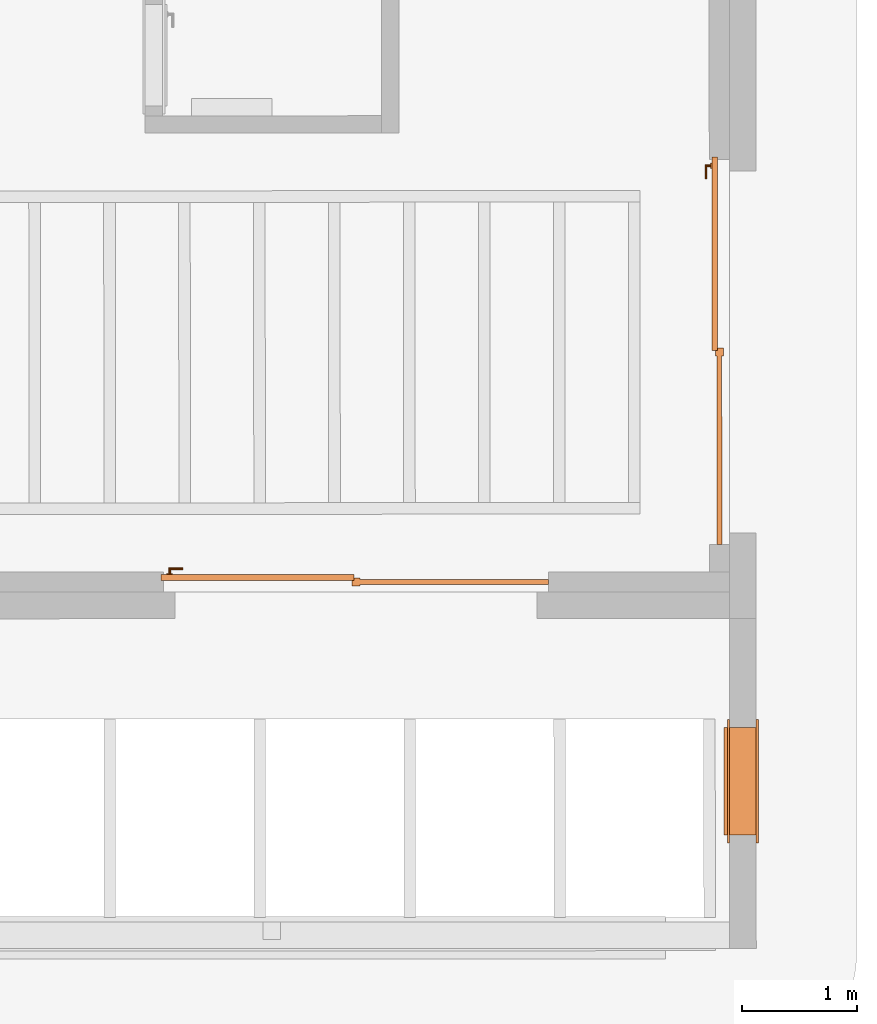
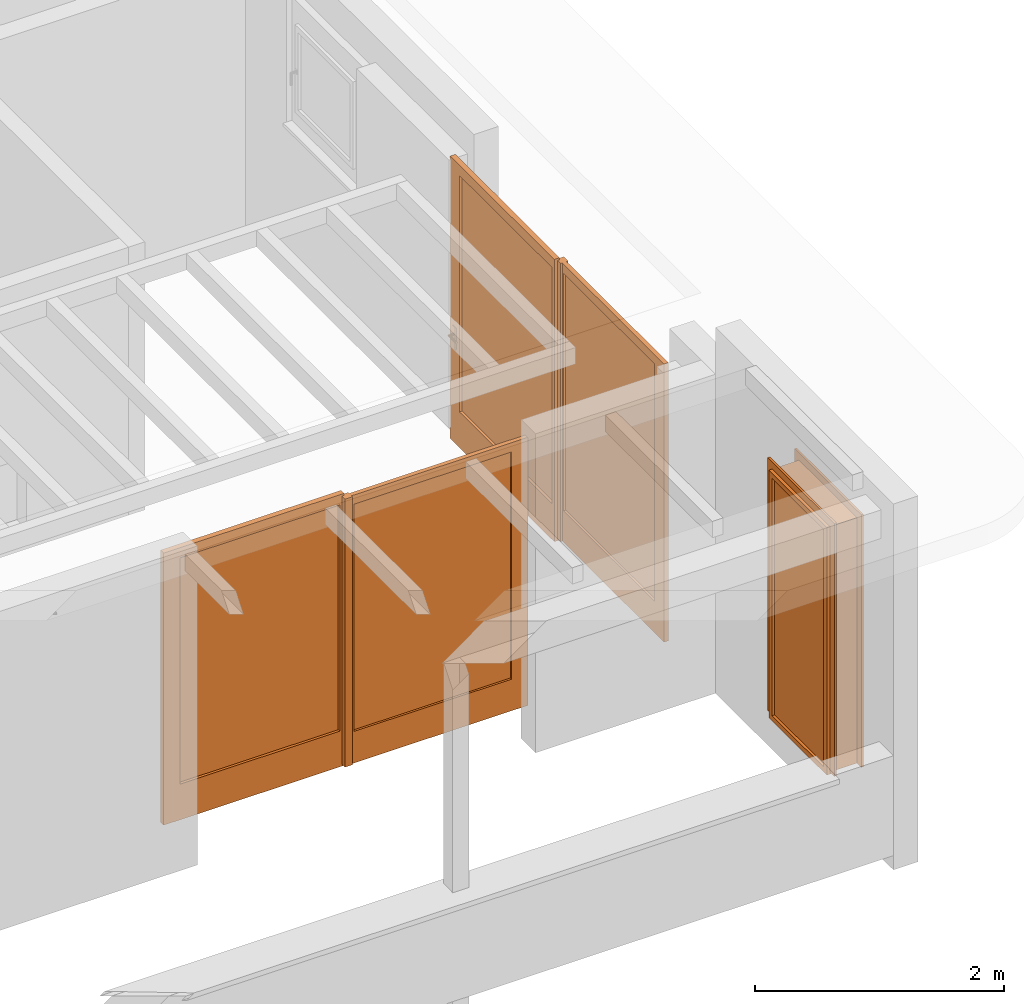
# One storey, part 5 of 7: 3 proxies.
"""IFC2X3 building model written with IfcOpenShell, lengths in metres."""

from ifc_helpers import new_model, entity, si_unit, converted_unit, derived_unit, direction, frame, origin, origin_with_axes, place, context, subcontext, project, spatial, closed_shell, open_shell, surface_model, source, transform, mapped, element, save


model = new_model("IFC2X3")

# Units and contexts
model_context = context("Model", 3, precision=1e-05, world=origin(), true_north=direction((0.772621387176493, -0.634867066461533)))
body_context = subcontext(model_context, "Body", "Model", "MODEL_VIEW")
ifc_project = project(units=[si_unit("LENGTHUNIT", "METRE"), si_unit("AREAUNIT", "SQUARE_METRE"), si_unit("VOLUMEUNIT", "CUBIC_METRE"), si_unit("MASSUNIT", "GRAM", prefix="KILO"), converted_unit("PLANEANGLEUNIT", "DEGREE", entity("IfcPlaneAngleMeasure", 0.0174532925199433), si_unit("PLANEANGLEUNIT", "RADIAN"), dimensions=[0, 0, 0, 0, 0, 0, 0]), derived_unit("THERMALTRANSMITTANCEUNIT", [(si_unit("POWERUNIT", "WATT"), 1), (si_unit("THERMODYNAMICTEMPERATUREUNIT", "KELVIN"), -1), (si_unit("LENGTHUNIT", "METRE"), -2)]), derived_unit("VOLUMETRICFLOWRATEUNIT", [(si_unit("LENGTHUNIT", "METRE"), 3), (converted_unit("TIMEUNIT", "hour", entity("IfcTimeMeasure", 3600.0), si_unit("TIMEUNIT", "SECOND"), dimensions=[0, 0, 1, 0, 0, 0, 0]), -1), (si_unit("LENGTHUNIT", "METRE"), -1)])], contexts=[model_context])

# Site, building, storey
site_placement = place(None, origin())
site = spatial("IfcSite", under=ifc_project, at=site_placement, Name="Modelle auf dem Nullpunkt", CompositionType="ELEMENT")
building_placement = place(site_placement, origin())
building = spatial("IfcBuilding", under=site, at=building_placement, Name="I", CompositionType="ELEMENT")
storey_placement = place(building_placement, origin())
storey = spatial("IfcBuildingStorey", under=building, at=storey_placement, Name="3.OG", CompositionType="ELEMENT", Elevation=0.0)

# Proxies
shared_shape_1 = source(origin_with_axes(), body_context, "Body", "SurfaceModel", [
    surface_model("IfcShellBasedSurfaceModel", [(1.70499999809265, 0.0, 2.75), (1.70499999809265, 0.0, 0.02), (1.63499999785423, 0.0, 0.02), (1.63499999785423, 0.0, 2.75), (1.70499999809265, 0.07, 0.02), (1.70499999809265, 0.07, 2.75), (1.63499999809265, 0.07, 2.75), (1.63499999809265, 0.07, 0.02)], [closed_shell([[[0, 1, 2, 3]], [[4, 5, 6, 7]], [[1, 0, 5, 4]], [[2, 1, 4, 7]], [[3, 2, 7, 6]], [[0, 3, 6, 5]]], orient=[[False], [False], [False], [False], [False], [False]])]),
    surface_model("IfcShellBasedSurfaceModel", [(3.35999999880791, 0.0499999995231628, 2.77), (3.35999999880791, 0.0499999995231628, 0.0), (3.20999999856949, 0.0499999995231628, 0.0), (3.20999999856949, 0.0499999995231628, 2.77), (3.35999999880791, 0.0999999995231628, 0.0), (3.35999999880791, 0.0999999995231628, 2.77), (3.20999999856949, 0.0999999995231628, 2.77), (3.20999999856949, 0.0999999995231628, 0.0)], [closed_shell([[[0, 1, 2, 3]], [[4, 5, 6, 7]], [[1, 0, 5, 4]], [[2, 1, 4, 7]], [[3, 2, 7, 6]], [[0, 3, 6, 5]]], orient=[[False], [False], [False], [False], [False], [False]])]),
    surface_model("IfcShellBasedSurfaceModel", [(1.72499999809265, 0.0500000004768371, 2.77), (1.72499999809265, 0.0500000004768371, 0.0), (1.68499999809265, 0.0500000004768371, 0.0), (1.68499999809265, 0.0500000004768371, 2.77), (1.72499999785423, 0.1, 0.0), (1.72499999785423, 0.1, 2.77), (1.68499999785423, 0.1, 2.77), (1.68499999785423, 0.1, 0.0)], [closed_shell([[[0, 1, 2, 3]], [[4, 5, 6, 7]], [[1, 0, 5, 4]], [[2, 1, 4, 7]], [[3, 2, 7, 6]], [[0, 3, 6, 5]]], orient=[[False], [False], [False], [False], [False], [False]])]),
    surface_model("IfcShellBasedSurfaceModel", [(3.20999999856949, 0.0499999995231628, 0.35), (3.20999999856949, 0.0499999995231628, 0.0), (1.72499999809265, 0.0500000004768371, 0.0), (1.72499999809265, 0.0500000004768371, 0.35), (3.20999999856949, 0.0999999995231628, 0.0), (3.20999999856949, 0.0999999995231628, 0.35), (1.72499999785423, 0.1, 0.35), (1.72499999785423, 0.1, 0.0)], [closed_shell([[[0, 1, 2, 3]], [[4, 5, 6, 7]], [[1, 0, 5, 4]], [[2, 1, 4, 7]], [[3, 2, 7, 6]], [[0, 3, 6, 5]]], orient=[[False], [False], [False], [False], [False], [False]])]),
    surface_model("IfcShellBasedSurfaceModel", [(3.20999999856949, 0.0499999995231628, 2.77), (3.20999999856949, 0.0499999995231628, 2.67), (1.72499999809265, 0.0500000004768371, 2.67), (1.72499999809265, 0.0500000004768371, 2.77), (3.20999999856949, 0.0999999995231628, 2.67), (3.20999999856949, 0.0999999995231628, 2.77), (1.72499999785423, 0.1, 2.77), (1.72499999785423, 0.1, 2.67)], [closed_shell([[[0, 1, 2, 3]], [[4, 5, 6, 7]], [[1, 0, 5, 4]], [[2, 1, 4, 7]], [[3, 2, 7, 6]], [[0, 3, 6, 5]]], orient=[[False], [False], [False], [False], [False], [False]])]),
    surface_model("IfcShellBasedSurfaceModel", [(3.30999999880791, 0.1, 1.145), (3.30999999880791, 0.1, 0.93), (3.25999999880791, 0.1, 0.93), (3.25999999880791, 0.1, 1.145), (3.30999999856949, 0.11, 0.93), (3.30999999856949, 0.11, 1.145), (3.25999999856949, 0.11, 1.145), (3.25999999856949, 0.11, 0.93)], [closed_shell([[[0, 1, 2, 3]], [[4, 5, 6, 7]], [[1, 0, 5, 4]], [[2, 1, 4, 7]], [[3, 2, 7, 6]], [[0, 3, 6, 5]]], orient=[[False], [False], [False], [False], [False], [False]])]),
    surface_model("IfcShellBasedSurfaceModel", [(3.28499999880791, 0.11, 1.08), (3.28999999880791, 0.109999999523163, 1.07866025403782), (3.29366025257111, 0.11, 1.075), (3.29499999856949, 0.11, 1.07), (3.29366025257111, 0.11, 1.065), (3.28999999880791, 0.109999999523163, 1.06133974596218), (3.28499999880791, 0.11, 1.06), (3.27999999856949, 0.109999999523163, 1.06133974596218), (3.27633974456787, 0.11, 1.065), (3.27499999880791, 0.11, 1.07), (3.27633974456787, 0.11, 1.075), (3.27999999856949, 0.109999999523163, 1.07866025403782), (3.28499999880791, 0.149999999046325, 1.08), (3.28999999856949, 0.154999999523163, 1.07866025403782), (3.29366025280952, 0.15866025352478, 1.075), (3.29499999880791, 0.159999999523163, 1.07), (3.29366025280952, 0.15866025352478, 1.065), (3.28999999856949, 0.154999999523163, 1.06133974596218), (3.28499999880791, 0.149999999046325, 1.06), (3.27999999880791, 0.145, 1.06133974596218), (3.27633974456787, 0.141339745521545, 1.065), (3.27499999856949, 0.14, 1.07), (3.27633974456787, 0.141339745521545, 1.075), (3.27999999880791, 0.145, 1.07866025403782), (3.16999999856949, 0.149999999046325, 1.08), (3.16999999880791, 0.144999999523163, 1.07866025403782), (3.16999999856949, 0.141339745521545, 1.075), (3.16999999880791, 0.14, 1.07), (3.16999999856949, 0.141339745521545, 1.065), (3.16999999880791, 0.144999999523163, 1.06133974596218), (3.16999999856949, 0.149999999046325, 1.06), (3.16999999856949, 0.155, 1.06133974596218), (3.16999999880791, 0.15866025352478, 1.065), (3.16999999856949, 0.159999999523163, 1.07), (3.16999999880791, 0.15866025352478, 1.075), (3.16999999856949, 0.155, 1.07866025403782)], [closed_shell([[[0, 1, 2, 3, 4, 5, 6, 7, 8, 9, 10, 11]], [[0, 12, 13, 1]], [[1, 13, 14, 2]], [[2, 14, 15, 3]], [[3, 15, 16, 4]], [[4, 16, 17, 5]], [[5, 17, 18, 6]], [[6, 18, 19, 7]], [[7, 19, 20, 8]], [[8, 20, 21, 9]], [[9, 21, 22, 10]], [[10, 22, 23, 11]], [[11, 23, 12, 0]], [[24, 25, 26, 27, 28, 29, 30, 31, 32, 33, 34, 35]], [[12, 24, 35, 13]], [[13, 35, 34, 14]], [[14, 34, 33, 15]], [[15, 33, 32, 16]], [[16, 32, 31, 17]], [[17, 31, 30, 18]], [[18, 30, 29, 19]], [[19, 29, 28, 20]], [[20, 28, 27, 21]], [[21, 27, 26, 22]], [[22, 26, 25, 23]], [[23, 25, 24, 12]]], orient=[[False], [False], [False], [False], [False], [False], [False], [False], [False], [False], [False], [False], [False], [False], [False], [False], [False], [False], [False], [False], [False], [False], [False], [False], [False], [False]])]),
    surface_model("IfcShellBasedSurfaceModel", [(1.63499999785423, 0.015, 2.75), (1.63499999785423, 0.015, 0.02), (1.61499999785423, 0.015, 0.02), (1.61499999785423, 0.015, 2.75), (1.63499999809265, 0.055, 0.02), (1.63499999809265, 0.055, 2.75), (1.61499999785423, 0.055, 2.75), (1.61499999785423, 0.055, 0.02)], [closed_shell([[[0, 1, 2, 3]], [[4, 5, 6, 7]], [[1, 0, 5, 4]], [[2, 1, 4, 7]], [[3, 2, 7, 6]], [[0, 3, 6, 5]]], orient=[[False], [False], [False], [False], [False], [False]])]),
    surface_model("IfcShellBasedSurfaceModel", [(0.149999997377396, 0.015, 2.75), (0.149999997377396, 0.015, 0.02), (0.0, 0.015, 0.02), (0.0, 0.015, 2.75), (0.149999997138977, 0.055, 0.02), (0.149999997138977, 0.055, 2.75), (0.0, 0.055, 2.75), (0.0, 0.055, 0.02)], [closed_shell([[[0, 1, 2, 3]], [[4, 5, 6, 7]], [[1, 0, 5, 4]], [[2, 1, 4, 7]], [[3, 2, 7, 6]], [[0, 3, 6, 5]]], orient=[[False], [False], [False], [False], [False], [False]])]),
    surface_model("IfcShellBasedSurfaceModel", [(1.61499999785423, 0.015, 0.33), (1.61499999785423, 0.015, 0.02), (0.149999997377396, 0.015, 0.02), (0.149999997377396, 0.015, 0.33), (1.61499999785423, 0.055, 0.02), (1.61499999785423, 0.055, 0.33), (0.149999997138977, 0.055, 0.33), (0.149999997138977, 0.055, 0.02)], [closed_shell([[[0, 1, 2, 3]], [[4, 5, 6, 7]], [[1, 0, 5, 4]], [[2, 1, 4, 7]], [[3, 2, 7, 6]], [[0, 3, 6, 5]]], orient=[[False], [False], [False], [False], [False], [False]])]),
    surface_model("IfcShellBasedSurfaceModel", [(1.61499999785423, 0.015, 2.75), (1.61499999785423, 0.015, 2.66), (0.149999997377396, 0.015, 2.66), (0.149999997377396, 0.015, 2.75), (1.61499999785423, 0.055, 2.66), (1.61499999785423, 0.055, 2.75), (0.149999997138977, 0.055, 2.75), (0.149999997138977, 0.055, 2.66)], [closed_shell([[[0, 1, 2, 3]], [[4, 5, 6, 7]], [[1, 0, 5, 4]], [[2, 1, 4, 7]], [[3, 2, 7, 6]], [[0, 3, 6, 5]]], orient=[[False], [False], [False], [False], [False], [False]])]),
    surface_model("IfcShellBasedSurfaceModel", [(3.20999999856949, 0.075, 0.35), (1.72499999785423, 0.0749999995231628, 0.35), (1.72499999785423, 0.0749999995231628, 2.67), (3.20999999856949, 0.075, 2.67)], [open_shell([[[0, 1, 2, 3]]], orient=[[False]])]),
    surface_model("IfcShellBasedSurfaceModel", [(1.61499999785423, 0.0349999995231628, 0.33), (0.149999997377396, 0.0350000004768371, 0.33), (0.149999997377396, 0.0350000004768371, 2.66), (1.61499999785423, 0.0349999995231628, 2.66)], [open_shell([[[0, 1, 2, 3]]], orient=[[False]])]),
])
proxy_1_placement = place(storey_placement, frame((40.9768436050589, -4.6392824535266, 444.48), z_axis=(0.0, 0.0, 1.0), x_axis=(-0.000353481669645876, 0.999999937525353, 0.0)))
element("IfcBuildingElementProxy", 1, at=proxy_1_placement, inside=storey, Name="1flg Weiß Blockzarge", ObjectType="DOOR", context=body_context, shape_type="MappedRepresentation", body=[
    mapped(shared_shape_1, transform((0.0, 0.0, 0.0), x_axis=(1.0, 0.0, 0.0), y_axis=(0.0, 1.0, 0.0), z_axis=(0.0, 0.0, 1.0), scale=1.0)),
])
shared_shape_2 = source(origin_with_axes(), body_context, "Body", "SurfaceModel", [
    surface_model("IfcShellBasedSurfaceModel", [(1.65500000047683, 0.0, 2.65), (1.72500000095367, 0.0, 2.65), (1.72500000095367, 0.0, 0.02), (1.65500000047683, 0.0, 0.02), (1.65500000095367, 0.0699999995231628, 0.02), (1.72500000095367, 0.0699999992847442, 0.02), (1.72500000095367, 0.0699999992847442, 2.65), (1.65500000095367, 0.0699999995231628, 2.65)], [closed_shell([[[0, 1, 2, 3]], [[4, 5, 6, 7]], [[3, 4, 7, 0]], [[2, 5, 4, 3]], [[1, 6, 5, 2]], [[0, 7, 6, 1]]], orient=[[False], [False], [False], [False], [False], [False]])]),
    surface_model("IfcShellBasedSurfaceModel", [(0.0, 0.0499999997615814, 2.67), (0.150000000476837, 0.0499999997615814, 2.67), (0.150000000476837, 0.0499999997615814, 0.0), (0.0, 0.0499999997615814, 0.0), (0.0, 0.0999999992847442, 0.0), (0.150000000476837, 0.0999999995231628, 0.0), (0.150000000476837, 0.0999999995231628, 2.67), (0.0, 0.0999999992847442, 2.67)], [closed_shell([[[0, 1, 2, 3]], [[4, 5, 6, 7]], [[3, 4, 7, 0]], [[2, 5, 4, 3]], [[1, 6, 5, 2]], [[0, 7, 6, 1]]], orient=[[False], [False], [False], [False], [False], [False]])]),
    surface_model("IfcShellBasedSurfaceModel", [(1.63500000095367, 0.0499999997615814, 2.67), (1.67500000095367, 0.0499999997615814, 2.67), (1.67500000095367, 0.0499999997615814, 0.0), (1.63500000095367, 0.0499999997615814, 0.0), (1.63500000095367, 0.0999999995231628, 0.0), (1.67500000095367, 0.0999999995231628, 0.0), (1.67500000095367, 0.0999999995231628, 2.67), (1.63500000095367, 0.0999999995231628, 2.67)], [closed_shell([[[0, 1, 2, 3]], [[4, 5, 6, 7]], [[3, 4, 7, 0]], [[2, 5, 4, 3]], [[1, 6, 5, 2]], [[0, 7, 6, 1]]], orient=[[False], [False], [False], [False], [False], [False]])]),
    surface_model("IfcShellBasedSurfaceModel", [(0.150000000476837, 0.0499999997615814, 0.35), (1.63500000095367, 0.0499999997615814, 0.35), (1.63500000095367, 0.0499999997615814, 0.0), (0.150000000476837, 0.0499999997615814, 0.0), (0.150000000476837, 0.0999999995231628, 0.0), (1.63500000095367, 0.0999999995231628, 0.0), (1.63500000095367, 0.0999999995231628, 0.35), (0.150000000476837, 0.0999999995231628, 0.35)], [closed_shell([[[0, 1, 2, 3]], [[4, 5, 6, 7]], [[3, 4, 7, 0]], [[2, 5, 4, 3]], [[1, 6, 5, 2]], [[0, 7, 6, 1]]], orient=[[False], [False], [False], [False], [False], [False]])]),
    surface_model("IfcShellBasedSurfaceModel", [(0.150000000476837, 0.0499999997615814, 2.67), (1.63500000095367, 0.0499999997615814, 2.67), (1.63500000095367, 0.0499999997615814, 2.57), (0.150000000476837, 0.0499999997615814, 2.57), (0.150000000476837, 0.0999999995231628, 2.57), (1.63500000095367, 0.0999999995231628, 2.57), (1.63500000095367, 0.0999999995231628, 2.67), (0.150000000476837, 0.0999999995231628, 2.67)], [closed_shell([[[0, 1, 2, 3]], [[4, 5, 6, 7]], [[3, 4, 7, 0]], [[2, 5, 4, 3]], [[1, 6, 5, 2]], [[0, 7, 6, 1]]], orient=[[False], [False], [False], [False], [False], [False]])]),
    surface_model("IfcShellBasedSurfaceModel", [(0.05, 0.0999999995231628, 1.145), (0.1, 0.0999999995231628, 1.145), (0.1, 0.0999999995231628, 0.93), (0.05, 0.0999999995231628, 0.93), (0.05, 0.109999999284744, 0.93), (0.1, 0.109999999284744, 0.93), (0.1, 0.109999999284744, 1.145), (0.05, 0.109999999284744, 1.145)], [closed_shell([[[0, 1, 2, 3]], [[4, 5, 6, 7]], [[3, 4, 7, 0]], [[2, 5, 4, 3]], [[1, 6, 5, 2]], [[0, 7, 6, 1]]], orient=[[False], [False], [False], [False], [False], [False]])]),
    surface_model("IfcShellBasedSurfaceModel", [(0.075, 0.109999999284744, 1.08), (0.0800000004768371, 0.109999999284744, 1.07866025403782), (0.0836602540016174, 0.109999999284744, 1.075), (0.0850000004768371, 0.109999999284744, 1.07), (0.0836602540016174, 0.109999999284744, 1.065), (0.0800000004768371, 0.109999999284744, 1.06133974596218), (0.075, 0.109999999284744, 1.06), (0.0700000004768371, 0.109999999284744, 1.06133974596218), (0.0663397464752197, 0.109999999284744, 1.065), (0.065, 0.109999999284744, 1.07), (0.0663397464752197, 0.109999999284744, 1.075), (0.0700000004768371, 0.109999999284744, 1.07866025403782), (0.07, 0.154999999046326, 1.07866025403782), (0.075, 0.149999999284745, 1.08), (0.0663397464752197, 0.158660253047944, 1.075), (0.0650000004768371, 0.159999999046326, 1.07), (0.0663397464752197, 0.158660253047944, 1.065), (0.07, 0.154999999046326, 1.06133974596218), (0.075, 0.149999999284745, 1.06), (0.0800000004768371, 0.144999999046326, 1.06133974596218), (0.0836602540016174, 0.141339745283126, 1.065), (0.0850000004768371, 0.139999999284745, 1.07), (0.0836602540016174, 0.141339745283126, 1.075), (0.0800000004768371, 0.144999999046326, 1.07866025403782), (0.19, 0.149999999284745, 1.08), (0.19, 0.154999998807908, 1.07866025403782), (0.19, 0.158660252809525, 1.075), (0.19, 0.159999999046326, 1.07), (0.19, 0.158660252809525, 1.065), (0.19, 0.154999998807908, 1.06133974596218), (0.19, 0.149999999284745, 1.06), (0.190000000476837, 0.144999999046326, 1.06133974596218), (0.19, 0.141339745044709, 1.065), (0.19, 0.139999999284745, 1.07), (0.19, 0.141339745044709, 1.075), (0.190000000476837, 0.144999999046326, 1.07866025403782)], [closed_shell([[[0, 1, 2, 3, 4, 5, 6, 7, 8, 9, 10, 11]], [[0, 11, 12, 13]], [[11, 10, 14, 12]], [[10, 9, 15, 14]], [[9, 8, 16, 15]], [[8, 7, 17, 16]], [[7, 6, 18, 17]], [[6, 5, 19, 18]], [[5, 4, 20, 19]], [[4, 3, 21, 20]], [[3, 2, 22, 21]], [[2, 1, 23, 22]], [[1, 0, 13, 23]], [[24, 25, 26, 27, 28, 29, 30, 31, 32, 33, 34, 35]], [[13, 12, 25, 24]], [[12, 14, 26, 25]], [[14, 15, 27, 26]], [[15, 16, 28, 27]], [[16, 17, 29, 28]], [[17, 18, 30, 29]], [[18, 19, 31, 30]], [[19, 20, 32, 31]], [[20, 21, 33, 32]], [[21, 22, 34, 33]], [[22, 23, 35, 34]], [[23, 13, 24, 35]]], orient=[[False], [False], [False], [False], [False], [False], [False], [False], [False], [False], [False], [False], [False], [False], [False], [False], [False], [False], [False], [False], [False], [False], [False], [False], [False], [False]])]),
    surface_model("IfcShellBasedSurfaceModel", [(1.72500000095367, 0.015, 2.65), (1.74500000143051, 0.0149999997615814, 2.65), (1.74500000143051, 0.0149999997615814, 0.02), (1.72500000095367, 0.015, 0.02), (1.72500000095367, 0.0549999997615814, 0.02), (1.74500000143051, 0.0549999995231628, 0.02), (1.74500000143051, 0.0549999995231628, 2.65), (1.72500000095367, 0.0549999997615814, 2.65)], [closed_shell([[[0, 1, 2, 3]], [[4, 5, 6, 7]], [[3, 4, 7, 0]], [[2, 5, 4, 3]], [[1, 6, 5, 2]], [[0, 7, 6, 1]]], orient=[[False], [False], [False], [False], [False], [False]])]),
    surface_model("IfcShellBasedSurfaceModel", [(3.21000000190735, 0.0149999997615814, 2.65), (3.36000000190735, 0.015, 2.65), (3.36000000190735, 0.015, 0.02), (3.21000000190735, 0.0149999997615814, 0.02), (3.21000000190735, 0.0549999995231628, 0.02), (3.36000000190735, 0.0549999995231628, 0.02), (3.36000000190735, 0.0549999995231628, 2.65), (3.21000000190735, 0.0549999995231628, 2.65)], [closed_shell([[[0, 1, 2, 3]], [[4, 5, 6, 7]], [[3, 4, 7, 0]], [[2, 5, 4, 3]], [[1, 6, 5, 2]], [[0, 7, 6, 1]]], orient=[[False], [False], [False], [False], [False], [False]])]),
    surface_model("IfcShellBasedSurfaceModel", [(1.74500000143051, 0.0149999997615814, 0.33), (3.21000000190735, 0.0149999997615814, 0.33), (3.21000000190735, 0.0149999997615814, 0.02), (1.74500000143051, 0.0149999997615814, 0.02), (1.74500000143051, 0.0549999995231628, 0.02), (3.21000000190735, 0.0549999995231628, 0.02), (3.21000000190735, 0.0549999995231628, 0.33), (1.74500000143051, 0.0549999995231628, 0.33)], [closed_shell([[[0, 1, 2, 3]], [[4, 5, 6, 7]], [[3, 4, 7, 0]], [[2, 5, 4, 3]], [[1, 6, 5, 2]], [[0, 7, 6, 1]]], orient=[[False], [False], [False], [False], [False], [False]])]),
    surface_model("IfcShellBasedSurfaceModel", [(1.74500000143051, 0.0149999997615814, 2.65), (3.21000000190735, 0.0149999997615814, 2.65), (3.21000000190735, 0.0149999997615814, 2.56), (1.74500000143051, 0.0149999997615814, 2.56), (1.74500000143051, 0.0549999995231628, 2.56), (3.21000000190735, 0.0549999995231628, 2.56), (3.21000000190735, 0.0549999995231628, 2.65), (1.74500000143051, 0.0549999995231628, 2.65)], [closed_shell([[[0, 1, 2, 3]], [[4, 5, 6, 7]], [[3, 4, 7, 0]], [[2, 5, 4, 3]], [[1, 6, 5, 2]], [[0, 7, 6, 1]]], orient=[[False], [False], [False], [False], [False], [False]])]),
    surface_model("IfcShellBasedSurfaceModel", [(0.150000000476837, 0.0749999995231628, 0.35), (0.150000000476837, 0.0749999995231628, 2.57), (1.63500000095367, 0.0749999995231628, 2.57), (1.63500000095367, 0.0749999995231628, 0.35)], [open_shell([[[0, 1, 2, 3]]], orient=[[False]])]),
    surface_model("IfcShellBasedSurfaceModel", [(1.74500000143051, 0.035, 0.33), (1.74500000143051, 0.035, 2.56), (3.21000000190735, 0.0349999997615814, 2.56), (3.21000000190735, 0.0349999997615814, 0.33)], [open_shell([[[0, 1, 2, 3]]], orient=[[False]])]),
])
proxy_2_placement = place(storey_placement, frame((36.0994702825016, -4.9985065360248, 444.58), z_axis=(0.0, 0.0, 1.0), x_axis=(0.999999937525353, 0.000353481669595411, 0.0)))
element("IfcBuildingElementProxy", 2, at=proxy_2_placement, inside=storey, Name="1flg Weiß Blockzarge", ObjectType="DOOR", context=body_context, shape_type="MappedRepresentation", body=[
    mapped(shared_shape_2, transform((0.0, 0.0, 0.0), x_axis=(1.0, 0.0, 0.0), y_axis=(0.0, 1.0, 0.0), z_axis=(0.0, 0.0, 1.0), scale=1.0)),
])
shared_shape_3 = source(origin_with_axes(), body_context, "Body", "SurfaceModel", [
    surface_model("IfcShellBasedSurfaceModel", [(0.0700000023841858, 0.270000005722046, 2.43), (0.0700000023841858, 0.270000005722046, 0.02), (0.0900000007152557, 0.270000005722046, 0.02), (0.0900000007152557, 0.270000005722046, 2.43), (0.0700000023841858, 0.0, 0.02), (0.0700000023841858, 0.0, 2.43), (0.0900000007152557, 0.0, 2.43), (0.0900000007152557, 0.0, 0.02)], [closed_shell([[[0, 1, 2, 3]], [[4, 5, 6, 7]], [[1, 0, 5, 4]], [[2, 1, 4, 7]], [[3, 2, 7, 6]], [[0, 3, 6, 5]]], orient=[[False], [False], [False], [False], [False], [False]])]),
    surface_model("IfcShellBasedSurfaceModel", [(0.0700000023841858, 0.270000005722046, 2.5), (0.0, 0.270000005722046, 2.5), (0.0, 0.270000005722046, 0.02), (0.0700000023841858, 0.270000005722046, 0.02), (0.0700000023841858, 0.25000000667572, 0.02), (0.0, 0.250000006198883, 0.02), (0.0, 0.250000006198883, 2.5), (0.0700000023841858, 0.25000000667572, 2.5)], [closed_shell([[[0, 1, 2, 3]], [[4, 5, 6, 7]], [[3, 4, 7, 0]], [[2, 5, 4, 3]], [[1, 6, 5, 2]], [[0, 7, 6, 1]]], orient=[[False], [False], [False], [False], [False], [False]])]),
    surface_model("IfcShellBasedSurfaceModel", [(0.0700000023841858, 0.02, 2.5), (0.0, 0.02, 2.5), (0.0, 0.02, 0.02), (0.0700000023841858, 0.02, 0.02), (0.0700000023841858, 0.0, 0.02), (0.0, 0.0, 0.02), (0.0, 0.0, 2.5), (0.0700000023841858, 0.0, 2.5)], [closed_shell([[[0, 1, 2, 3]], [[4, 5, 6, 7]], [[3, 4, 7, 0]], [[2, 5, 4, 3]], [[1, 6, 5, 2]], [[0, 7, 6, 1]]], orient=[[False], [False], [False], [False], [False], [False]])]),
    surface_model("IfcShellBasedSurfaceModel", [(0.98000000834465, 0.270000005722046, 2.43), (0.98000000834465, 0.270000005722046, 0.02), (1.00000000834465, 0.270000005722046, 0.02), (1.00000000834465, 0.270000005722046, 2.43), (0.98000000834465, 0.0, 0.02), (0.98000000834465, 0.0, 2.43), (1.00000000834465, 0.0, 2.43), (1.00000000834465, 0.0, 0.02)], [closed_shell([[[0, 1, 2, 3]], [[4, 5, 6, 7]], [[1, 0, 5, 4]], [[2, 1, 4, 7]], [[3, 2, 7, 6]], [[0, 3, 6, 5]]], orient=[[False], [False], [False], [False], [False], [False]])]),
    surface_model("IfcShellBasedSurfaceModel", [(1.00000000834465, 0.270000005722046, 2.5), (1.00000000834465, 0.270000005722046, 0.02), (1.07000000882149, 0.270000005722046, 0.02), (1.07000000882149, 0.270000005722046, 2.5), (1.00000000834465, 0.250000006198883, 0.02), (1.00000000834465, 0.250000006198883, 2.5), (1.07000000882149, 0.250000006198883, 2.5), (1.07000000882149, 0.250000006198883, 0.02)], [closed_shell([[[0, 1, 2, 3]], [[4, 5, 6, 7]], [[1, 0, 5, 4]], [[2, 1, 4, 7]], [[3, 2, 7, 6]], [[0, 3, 6, 5]]], orient=[[False], [False], [False], [False], [False], [False]])]),
    surface_model("IfcShellBasedSurfaceModel", [(1.00000000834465, 0.02, 2.5), (1.00000000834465, 0.02, 0.02), (1.07000000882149, 0.0199999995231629, 0.02), (1.07000000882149, 0.0199999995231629, 2.5), (1.00000000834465, 0.0, 0.02), (1.00000000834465, 0.0, 2.5), (1.07000000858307, 0.0, 2.5), (1.07000000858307, 0.0, 0.02)], [closed_shell([[[0, 1, 2, 3]], [[4, 5, 6, 7]], [[1, 0, 5, 4]], [[2, 1, 4, 7]], [[3, 2, 7, 6]], [[0, 3, 6, 5]]], orient=[[False], [False], [False], [False], [False], [False]])]),
    surface_model("IfcShellBasedSurfaceModel", [(0.0900000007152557, 0.270000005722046, 2.43), (0.0900000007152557, 0.270000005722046, 2.41), (0.98000000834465, 0.270000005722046, 2.41), (0.98000000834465, 0.270000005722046, 2.43), (0.0900000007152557, 0.0, 2.41), (0.0900000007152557, 0.0, 2.43), (0.98000000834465, 0.0, 2.43), (0.98000000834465, 0.0, 2.41)], [closed_shell([[[0, 1, 2, 3]], [[4, 5, 6, 7]], [[1, 0, 5, 4]], [[2, 1, 4, 7]], [[3, 2, 7, 6]], [[0, 3, 6, 5]]], orient=[[False], [False], [False], [False], [False], [False]])]),
    surface_model("IfcShellBasedSurfaceModel", [(0.0700000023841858, 0.270000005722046, 2.5), (0.0700000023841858, 0.270000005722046, 2.43), (1.00000000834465, 0.270000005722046, 2.43), (1.00000000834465, 0.270000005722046, 2.5), (0.0700000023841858, 0.25000000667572, 2.43), (0.0700000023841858, 0.25000000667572, 2.5), (1.00000000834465, 0.250000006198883, 2.5), (1.00000000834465, 0.250000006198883, 2.43)], [closed_shell([[[0, 1, 2, 3]], [[4, 5, 6, 7]], [[1, 0, 5, 4]], [[2, 1, 4, 7]], [[3, 2, 7, 6]], [[0, 3, 6, 5]]], orient=[[False], [False], [False], [False], [False], [False]])]),
    surface_model("IfcShellBasedSurfaceModel", [(0.0700000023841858, 0.02, 2.5), (0.0700000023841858, 0.02, 2.43), (1.00000000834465, 0.02, 2.43), (1.00000000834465, 0.02, 2.5), (0.0700000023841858, 0.0, 2.43), (0.0700000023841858, 0.0, 2.5), (1.00000000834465, 0.0, 2.5), (1.00000000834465, 0.0, 2.43)], [closed_shell([[[0, 1, 2, 3]], [[4, 5, 6, 7]], [[1, 0, 5, 4]], [[2, 1, 4, 7]], [[3, 2, 7, 6]], [[0, 3, 6, 5]]], orient=[[False], [False], [False], [False], [False], [False]])]),
    surface_model("IfcShellBasedSurfaceModel", [(0.0700000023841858, 0.300000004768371, 2.43), (0.0700000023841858, 0.300000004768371, 0.0), (0.120000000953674, 0.300000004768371, 0.0), (0.120000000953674, 0.300000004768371, 2.43), (0.0700000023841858, 0.25000000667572, 0.0), (0.0700000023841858, 0.25000000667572, 2.43), (0.120000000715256, 0.25000000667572, 2.43), (0.120000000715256, 0.25000000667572, 0.0)], [closed_shell([[[0, 1, 2, 3]], [[4, 5, 6, 7]], [[1, 0, 5, 4]], [[2, 1, 4, 7]], [[3, 2, 7, 6]], [[0, 3, 6, 5]]], orient=[[False], [False], [False], [False], [False], [False]])]),
    surface_model("IfcShellBasedSurfaceModel", [(0.950000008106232, 0.300000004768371, 2.43), (0.950000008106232, 0.300000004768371, 0.0), (1.00000000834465, 0.300000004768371, 0.0), (1.00000000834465, 0.300000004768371, 2.43), (0.950000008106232, 0.250000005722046, 0.0), (0.950000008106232, 0.250000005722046, 2.43), (1.00000000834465, 0.250000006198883, 2.43), (1.00000000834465, 0.250000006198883, 0.0)], [closed_shell([[[0, 1, 2, 3]], [[4, 5, 6, 7]], [[1, 0, 5, 4]], [[2, 1, 4, 7]], [[3, 2, 7, 6]], [[0, 3, 6, 5]]], orient=[[False], [False], [False], [False], [False], [False]])]),
    surface_model("IfcShellBasedSurfaceModel", [(0.120000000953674, 0.300000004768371, 0.05), (0.120000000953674, 0.300000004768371, 0.0), (0.950000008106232, 0.300000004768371, 0.0), (0.950000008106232, 0.300000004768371, 0.05), (0.120000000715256, 0.25000000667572, 0.0), (0.120000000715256, 0.25000000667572, 0.05), (0.950000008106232, 0.250000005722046, 0.05), (0.950000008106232, 0.250000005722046, 0.0)], [closed_shell([[[0, 1, 2, 3]], [[4, 5, 6, 7]], [[1, 0, 5, 4]], [[2, 1, 4, 7]], [[3, 2, 7, 6]], [[0, 3, 6, 5]]], orient=[[False], [False], [False], [False], [False], [False]])]),
    surface_model("IfcShellBasedSurfaceModel", [(0.120000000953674, 0.300000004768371, 2.43), (0.120000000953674, 0.300000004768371, 2.38), (0.950000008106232, 0.300000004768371, 2.38), (0.950000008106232, 0.300000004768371, 2.43), (0.120000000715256, 0.25000000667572, 2.38), (0.120000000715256, 0.25000000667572, 2.43), (0.950000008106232, 0.250000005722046, 2.43), (0.950000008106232, 0.250000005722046, 2.38)], [closed_shell([[[0, 1, 2, 3]], [[4, 5, 6, 7]], [[1, 0, 5, 4]], [[2, 1, 4, 7]], [[3, 2, 7, 6]], [[0, 3, 6, 5]]], orient=[[False], [False], [False], [False], [False], [False]])]),
    surface_model("IfcShellBasedSurfaceModel", [(0.120000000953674, 0.275000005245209, 0.05), (0.95000000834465, 0.275000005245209, 0.05), (0.95000000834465, 0.275000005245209, 2.38), (0.120000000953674, 0.275000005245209, 2.38)], [open_shell([[[0, 1, 2, 3]]], orient=[[False]])]),
])
proxy_3_placement = place(storey_placement, frame((41.2802573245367, -7.22417536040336, 444.7), z_axis=(0.0, 0.0, 1.0), x_axis=(-0.000353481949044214, 0.999999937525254, 0.0)))
element("IfcBuildingElementProxy", 3, at=proxy_3_placement, inside=storey, Name="1flg Weiß UZ außen", context=body_context, shape_type="MappedRepresentation", body=[
    mapped(shared_shape_3, transform((0.0, 0.0, 0.0), x_axis=(1.0, 0.0, 0.0), y_axis=(0.0, 1.0, 0.0), z_axis=(0.0, 0.0, 1.0), scale=1.0)),
])

save(model, "model.ifc")
